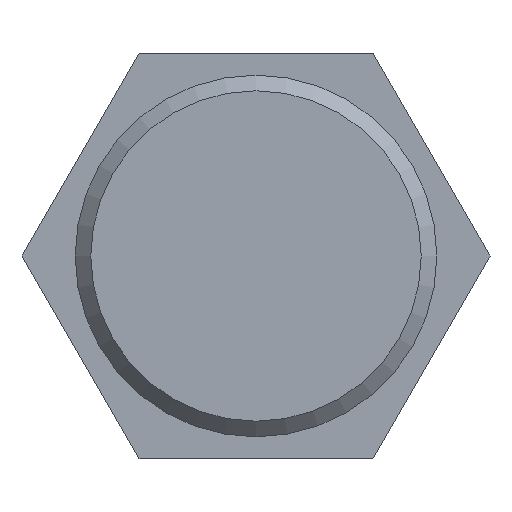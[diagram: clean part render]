
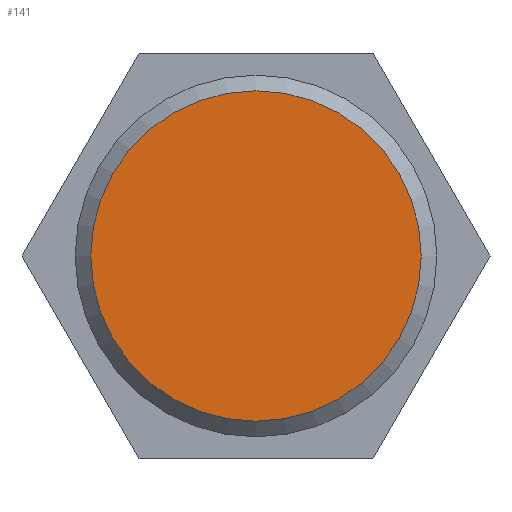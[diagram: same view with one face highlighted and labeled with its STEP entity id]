
A CAD part, left-side view. The second image highlights one B-rep face of the part: STEP entity #141.
In plain terms, the highlighted planar face has unit normal (-1, 0, 0).
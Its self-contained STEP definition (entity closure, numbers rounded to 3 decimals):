
#110=CARTESIAN_POINT('',(0.,10.6,0.));
#111=VERTEX_POINT('',#110);
#112=CARTESIAN_POINT('',(0.,0.0,0.0));
#113=DIRECTION('',(1.0,0.0,0.0));
#114=DIRECTION('',(0.0,-1.0,0.0));
#115=AXIS2_PLACEMENT_3D('',#112,#113,#114);
#116=CIRCLE('',#115,10.6);
#117=EDGE_CURVE('',#111,#111,#116,.T.);
#133=CARTESIAN_POINT('',(0.,5.8,0.0));
#134=DIRECTION('',(-1.0,0.0,0.0));
#135=DIRECTION('',(0.0,0.0,1.0));
#136=AXIS2_PLACEMENT_3D('',#133,#134,#135);
#137=PLANE('',#136);
#138=ORIENTED_EDGE('',*,*,#117,.F.);
#139=EDGE_LOOP('',(#138));
#140=FACE_OUTER_BOUND('',#139,.T.);
#141=ADVANCED_FACE('',(#140),#137,.T.);
